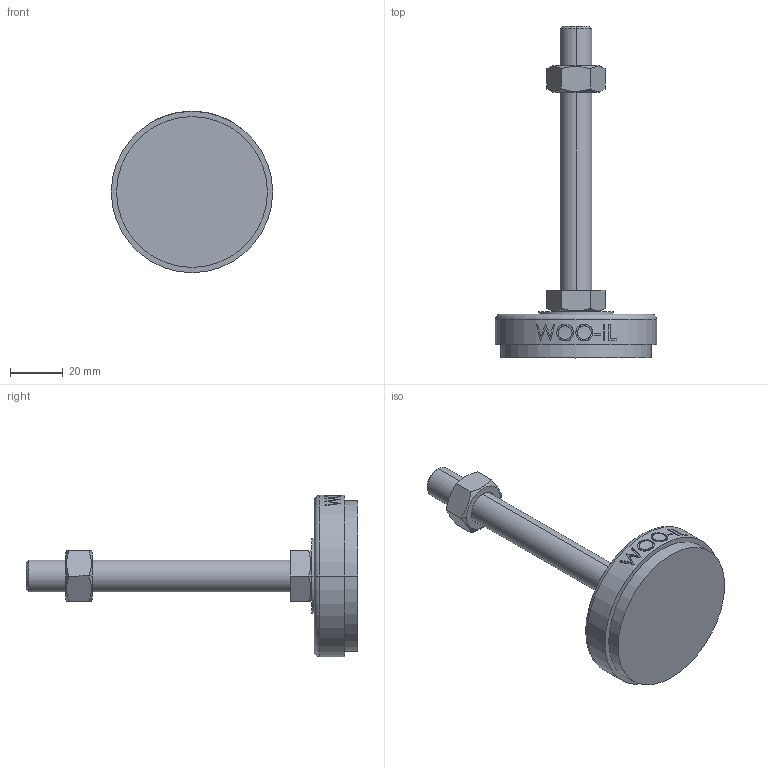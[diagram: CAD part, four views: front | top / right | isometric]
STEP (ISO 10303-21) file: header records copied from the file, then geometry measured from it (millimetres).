
FILE_DESCRIPTION (( 'STEP AP214' ), '1' );
FILE_NAME ('NS61-M12-100.step', '2021-01-11T05:44:43', ( '' ), ( '' ), 'SwSTEP 2.0', 'SolidWorks 2019', '' );
FILE_SCHEMA (( 'AUTOMOTIVE_DESIGN' ));
Length unit declared in the file: millimetre
Products named in the file (2): NS61-M12-100
Bounding box: 61 x 125.5 x 61 mm (x, y, z)
Volume: 62527.9 mm3; surface area: 15117 mm2
Topology: 3 solids, 3 shells, 96 faces, 223 edges, 144 vertices
Faces by surface type: plane 48, cylinder 18, bspline 16, cone 12, torus 2
Entity records: 4252 total; most frequent: CARTESIAN_POINT 2127, ORIENTED_EDGE 446, DIRECTION 381, EDGE_CURVE 223, VERTEX_POINT 144, AXIS2_PLACEMENT_3D 142, EDGE_LOOP 109, VECTOR 97
